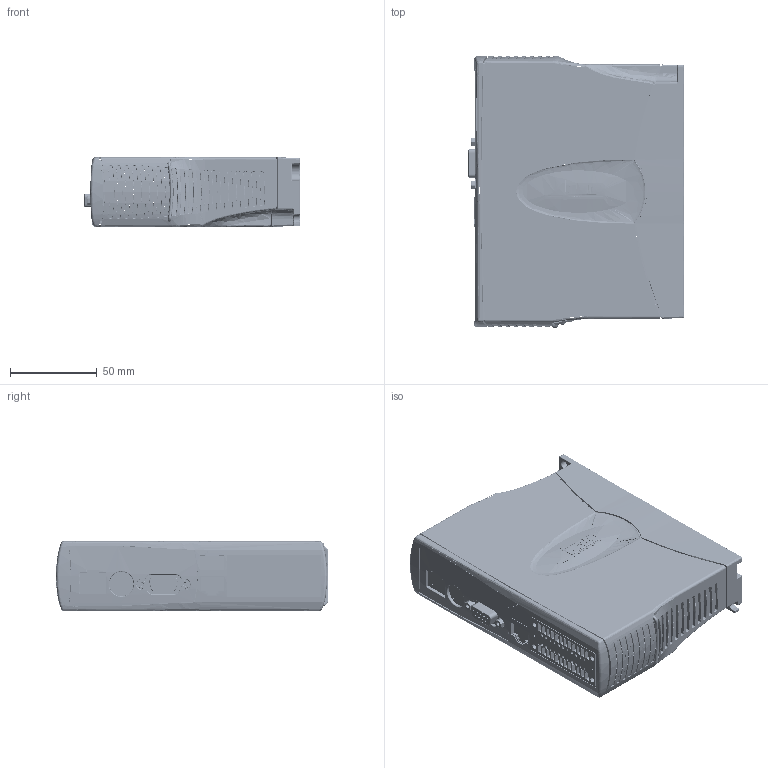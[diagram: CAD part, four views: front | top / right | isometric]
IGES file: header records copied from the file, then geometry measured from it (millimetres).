
Start section: SolidWorks IGES file using analytic representation for surfaces
Global section: file name: S:\TRO-04\Solidworks Data\Main Unit\MC4N COMBINED PART.IGS; native system: SolidWorks 2012; preprocessor: SolidWorks 2012; author: John; date: 140312.141944; units: millimetre
Bounding box: 124.25 x 157.06 x 40.11 mm (x, y, z)
Surface area: 89387.3 mm2 (no closed solid volume)
Topology: 0 solids, 0 shells, 3518 faces, 32018 edges, 31986 vertices
Faces by surface type: bspline 2835, revolution 683
